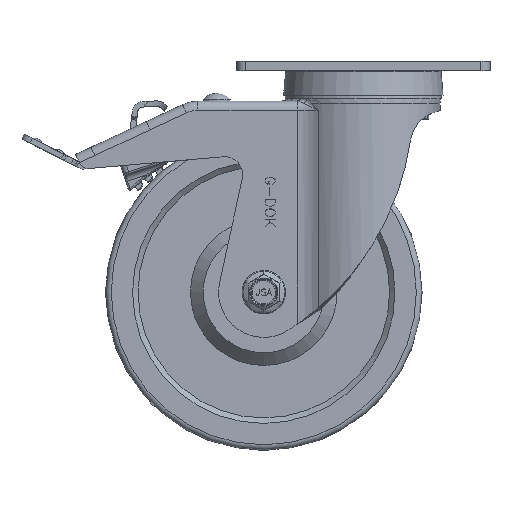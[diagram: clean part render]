
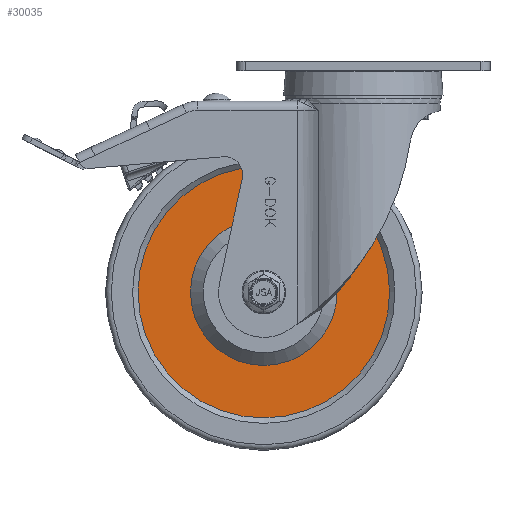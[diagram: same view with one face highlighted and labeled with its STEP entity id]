
A CAD part, front view. The second image highlights one B-rep face of the part: STEP entity #30035.
In plain terms, the highlighted planar face has unit normal (0, -1, 0).
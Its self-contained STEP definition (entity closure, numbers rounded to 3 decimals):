
#7148=FACE_BOUND('',#11337,.T.);
#8013=PLANE('',#32318);
#9594=FACE_OUTER_BOUND('',#11336,.T.);
#11336=EDGE_LOOP('',(#27806,#27807));
#11337=EDGE_LOOP('',(#27808,#27809));
#12173=CIRCLE('',#32316,40.5);
#12174=CIRCLE('',#32317,40.5);
#12175=CIRCLE('',#32319,69.5);
#12176=CIRCLE('',#32320,69.5);
#14966=VERTEX_POINT('',#57664);
#14967=VERTEX_POINT('',#57665);
#14968=VERTEX_POINT('',#57670);
#14969=VERTEX_POINT('',#57671);
#19298=EDGE_CURVE('',#14966,#14967,#12173,.T.);
#19300=EDGE_CURVE('',#14967,#14966,#12174,.T.);
#19301=EDGE_CURVE('',#14968,#14969,#12175,.T.);
#19302=EDGE_CURVE('',#14969,#14968,#12176,.T.);
#27806=ORIENTED_EDGE('',*,*,#19301,.T.);
#27807=ORIENTED_EDGE('',*,*,#19302,.T.);
#27808=ORIENTED_EDGE('',*,*,#19298,.F.);
#27809=ORIENTED_EDGE('',*,*,#19300,.F.);
#30035=ADVANCED_FACE('',(#9594,#7148),#8013,.T.);
#32316=AXIS2_PLACEMENT_3D('',#57666,#39411,#39412);
#32317=AXIS2_PLACEMENT_3D('',#57668,#39414,#39415);
#32318=AXIS2_PLACEMENT_3D('',#57669,#39416,#39417);
#32319=AXIS2_PLACEMENT_3D('',#57672,#39418,#39419);
#32320=AXIS2_PLACEMENT_3D('',#57673,#39420,#39421);
#39411=DIRECTION('center_axis',(0.,-1.,0.));
#39412=DIRECTION('ref_axis',(0.,0.,
1.));
#39414=DIRECTION('center_axis',(0.,-1.,0.));
#39415=DIRECTION('ref_axis',(0.,0.,
1.));
#39416=DIRECTION('center_axis',(0.,-1.,0.));
#39417=DIRECTION('ref_axis',(0.,0.,
1.));
#39418=DIRECTION('center_axis',(0.,-1.,0.));
#39419=DIRECTION('ref_axis',(0.,0.,
1.));
#39420=DIRECTION('center_axis',(0.,-1.,0.));
#39421=DIRECTION('ref_axis',(0.,0.,
1.));
#57664=CARTESIAN_POINT('',(-55.,-17.,-87.));
#57665=CARTESIAN_POINT('',(-55.,-17.,-168.));
#57666=CARTESIAN_POINT('Origin',(-55.,-17.,-127.5));
#57668=CARTESIAN_POINT('Origin',(-55.,-17.,-127.5));
#57669=CARTESIAN_POINT('Origin',(-55.,-17.,-87.));
#57670=CARTESIAN_POINT('',(-55.,-17.,-58.));
#57671=CARTESIAN_POINT('',(-55.,-17.,-197.));
#57672=CARTESIAN_POINT('Origin',(-55.,-17.,-127.5));
#57673=CARTESIAN_POINT('Origin',(-55.,-17.,-127.5));
